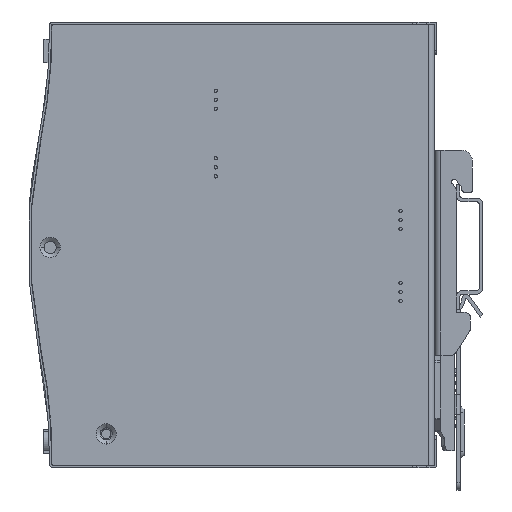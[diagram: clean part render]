
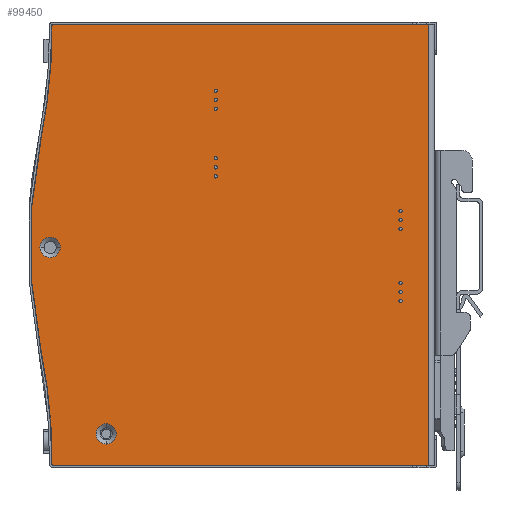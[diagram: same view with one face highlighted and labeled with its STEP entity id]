
A CAD part, front view. The second image highlights one B-rep face of the part: STEP entity #99450.
In plain terms, the highlighted planar face has unit normal (0, -1, 0).
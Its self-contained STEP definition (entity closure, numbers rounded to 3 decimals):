
#97930=CARTESIAN_POINT('',(95.953,13.236,74.));
#97940=VERTEX_POINT('',#97930);
#97970=CARTESIAN_POINT('',(-9.439,13.236,74.));
#97980=DIRECTION('',(1.,0.,0.));
#97990=VECTOR('',#97980,1.);
#98000=LINE('',#97970,#97990);
#98010=CARTESIAN_POINT('',(-9.439,13.236,74.));
#98020=VERTEX_POINT('',#98010);
#98030=EDGE_CURVE('',#98020,#97940,#98000,.T.);
#98190=CARTESIAN_POINT('',(-9.439,13.236,74.));
#98200=CARTESIAN_POINT('',(-9.509,13.236,74.));
#98210=CARTESIAN_POINT('',(-9.636,13.236,73.973)
);
#98220=CARTESIAN_POINT('',(-9.802,13.236,73.863)
);
#98230=CARTESIAN_POINT('',(-9.912,13.236,73.697))
;
#98240=CARTESIAN_POINT('',(-9.94,13.236,73.57)
);
#98250=CARTESIAN_POINT('',(-9.939,13.236,73.501)
);
#98260=B_SPLINE_CURVE_WITH_KNOTS('',3,(#98190,#98200,#98210,#98220,
#98230,#98240,#98250),.UNSPECIFIED.,.F.,.F.,(4,1,1,1,4),(0.,0.25,0.5,
0.75,1.),.UNSPECIFIED.);
#98270=CARTESIAN_POINT('',(-9.939,13.236,73.495)
);
#98280=VERTEX_POINT('',#98270);
#98290=EDGE_CURVE('',#98020,#98280,#98260,.T.);
#98530=CARTESIAN_POINT('',(-13.667,13.236,0.));
#98540=DIRECTION('',(-0.,-1.,-0.));
#98550=DIRECTION('',(-1.,0.,0.));
#98560=AXIS2_PLACEMENT_3D('',#98530,#98540,#98550);
#98570=PLANE('',#98560);
#98580=CARTESIAN_POINT('',(-9.939,13.236,-49.501
));
#98590=CARTESIAN_POINT('',(-9.94,13.236,-49.57
));
#98600=CARTESIAN_POINT('',(-9.912,13.236,-49.697
));
#98610=CARTESIAN_POINT('',(-9.802,13.236,-49.863
));
#98620=CARTESIAN_POINT('',(-9.636,13.236,-49.973
));
#98630=CARTESIAN_POINT('',(-9.509,13.236,-50.));
#98640=CARTESIAN_POINT('',(-9.439,13.236,-50.));
#98650=B_SPLINE_CURVE_WITH_KNOTS('',3,(#98580,#98590,#98600,#98610,
#98620,#98630,#98640),.UNSPECIFIED.,.F.,.F.,(4,1,1,1,4),(0.,0.25,0.5,
0.75,1.),.UNSPECIFIED.);
#98660=CARTESIAN_POINT('',(-9.939,13.236,-49.498
));
#98670=VERTEX_POINT('',#98660);
#98680=CARTESIAN_POINT('',(-9.439,13.236,-50.));
#98690=VERTEX_POINT('',#98680);
#98700=EDGE_CURVE('',#98670,#98690,#98650,.T.);
#98710=ORIENTED_EDGE('',*,*,#98700,.T.);
#98720=CARTESIAN_POINT('',(-159.932,13.236,-48.019
));
#98730=DIRECTION('',(0.,1.,0.));
#98740=DIRECTION('',(0.98,0.,0.2));
#98750=AXIS2_PLACEMENT_3D('',#98720,#98730,#98740);
#98760=CIRCLE('',#98750,150.);
#98770=CARTESIAN_POINT('',(-12.964,13.236,-18.01
));
#98780=VERTEX_POINT('',#98770);
#98790=EDGE_CURVE('',#98780,#98670,#98760,.T.);
#98800=ORIENTED_EDGE('',*,*,#98790,.T.);
#98810=CARTESIAN_POINT('',(134.003,13.236,12.))
;
#98820=DIRECTION('',(0.,-1.,0.));
#98830=DIRECTION('',(-0.98,0.,0.2));
#98840=AXIS2_PLACEMENT_3D('',#98810,#98820,#98830);
#98850=CIRCLE('',#98840,150.);
#98860=CARTESIAN_POINT('',(-12.964,13.236,42.01)
);
#98870=VERTEX_POINT('',#98860);
#98880=EDGE_CURVE('',#98870,#98780,#98850,.T.);
#98890=ORIENTED_EDGE('',*,*,#98880,.T.);
#98900=CARTESIAN_POINT('',(-159.932,13.236,72.019)
);
#98910=DIRECTION('',(0.,1.,0.));
#98920=DIRECTION('',(1.,0.,0.01));
#98930=AXIS2_PLACEMENT_3D('',#98900,#98910,#98920);
#98940=CIRCLE('',#98930,150.);
#98950=EDGE_CURVE('',#98280,#98870,#98940,.T.);
#98960=ORIENTED_EDGE('',*,*,#98950,.T.);
#98970=ORIENTED_EDGE('',*,*,#98290,.T.);
#98980=ORIENTED_EDGE('',*,*,#98030,.F.);
#98990=CARTESIAN_POINT('',(95.953,13.236,74.));
#99000=DIRECTION('',(0.,0.,-1.));
#99010=VECTOR('',#99000,1.);
#99020=LINE('',#98990,#99010);
#99030=CARTESIAN_POINT('',(95.953,13.236,-50.));
#99040=VERTEX_POINT('',#99030);
#99050=EDGE_CURVE('',#97940,#99040,#99020,.T.);
#99060=ORIENTED_EDGE('',*,*,#99050,.F.);
#99070=CARTESIAN_POINT('',(-9.439,13.236,-50.));
#99080=DIRECTION('',(1.,0.,0.));
#99090=VECTOR('',#99080,1.);
#99100=LINE('',#99070,#99090);
#99110=EDGE_CURVE('',#98690,#99040,#99100,.T.);
#99120=ORIENTED_EDGE('',*,*,#99110,.T.);
#99130=EDGE_LOOP('',(#99120,#99060,#98980,#98970,#98960,#98890,#98800,
#98710));
#99140=FACE_OUTER_BOUND('',#99130,.T.);
#99150=CARTESIAN_POINT('',(-10.447,13.236,11.25))
;
#99160=DIRECTION('',(0.,1.,0.));
#99170=DIRECTION('',(1.,0.,0.));
#99180=AXIS2_PLACEMENT_3D('',#99150,#99160,#99170);
#99190=CIRCLE('',#99180,2.85);
#99200=CARTESIAN_POINT('',(-7.597,13.236,11.25));
#99210=VERTEX_POINT('',#99200);
#99220=CARTESIAN_POINT('',(-13.297,13.236,11.25))
;
#99230=VERTEX_POINT('',#99220);
#99240=EDGE_CURVE('',#99210,#99230,#99190,.T.);
#99250=ORIENTED_EDGE('',*,*,#99240,.T.);
#99260=EDGE_CURVE('',#99230,#99210,#99190,.T.);
#99270=ORIENTED_EDGE('',*,*,#99260,.T.);
#99280=EDGE_LOOP('',(#99270,#99250));
#99290=FACE_BOUND('',#99280,.T.);
#99300=CARTESIAN_POINT('',(5.303,13.236,-41.15))
;
#99310=DIRECTION('',(0.,1.,0.));
#99320=DIRECTION('',(0.,0.,1.));
#99330=AXIS2_PLACEMENT_3D('',#99300,#99310,#99320);
#99340=CIRCLE('',#99330,2.85);
#99350=CARTESIAN_POINT('',(5.303,13.236,-44.))
;
#99360=VERTEX_POINT('',#99350);
#99370=CARTESIAN_POINT('',(5.303,13.236,-38.3))
;
#99380=VERTEX_POINT('',#99370);
#99390=EDGE_CURVE('',#99360,#99380,#99340,.T.);
#99400=ORIENTED_EDGE('',*,*,#99390,.T.);
#99410=EDGE_CURVE('',#99380,#99360,#99340,.T.);
#99420=ORIENTED_EDGE('',*,*,#99410,.T.);
#99430=EDGE_LOOP('',(#99420,#99400));
#99440=FACE_BOUND('',#99430,.T.);
#99450=ADVANCED_FACE('',(#99140,#99290,#99440),#98570,.T.);
